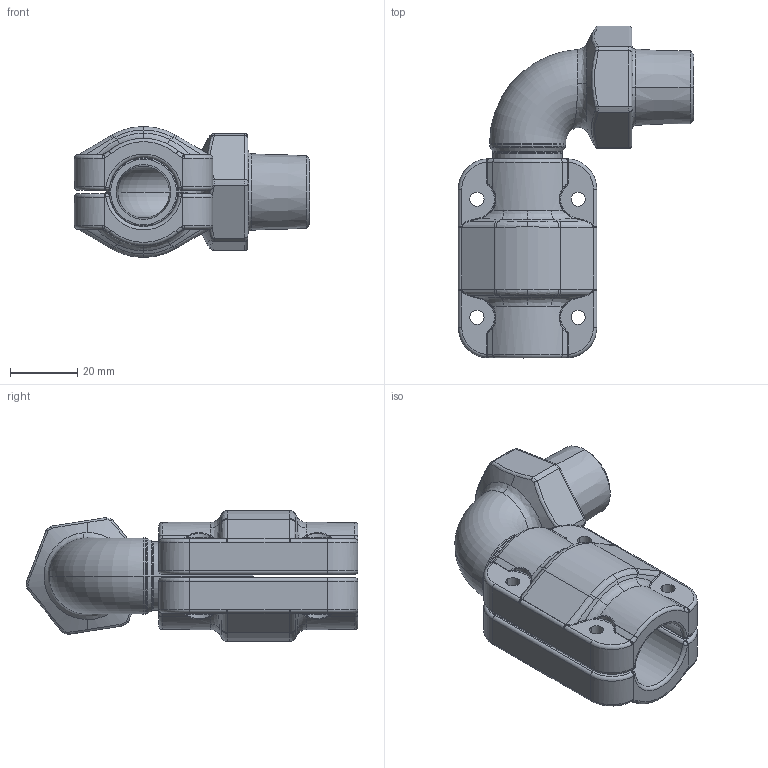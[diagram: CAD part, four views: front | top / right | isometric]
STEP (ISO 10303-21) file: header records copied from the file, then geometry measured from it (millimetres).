
FILE_DESCRIPTION((''),'2;1');
FILE_NAME('AU15101599_ASM','2017-05-12T',('Administrator'),(''),'PRO/ENGINEER BY PARAMETRIC TECHNOLOGY CORPORATION, 2009360','PRO/ENGINEER BY PARAMETRIC TECHNOLOGY CORPORATION, 2009360','');
FILE_SCHEMA(('AUTOMOTIVE_DESIGN_CC2 { 1 2 10303 214 -1 1 5 2 }'));
Length unit declared in the file: millimetre
Products named in the file (5): AU15101500; 201510020000_38; 201510020001_10; 2015100200_ASM; AU15101599_ASM
Assembly tree (4 placements, depth 3):
  AU15101599_ASM
    AU15101500
    2015100200_ASM
      201510020000_38
      201510020001_10
Bounding box: 69.72 x 98.38 x 38.8 mm (x, y, z)
Volume: 66418.2 mm3; surface area: 29933.7 mm2
Topology: 3 solids, 9 shells, 450 faces, 1062 edges, 632 vertices
Faces by surface type: bspline 146, cylinder 128, torus 96, plane 48, cone 24, sphere 8
Entity records: 22385 total; most frequent: CARTESIAN_POINT 9877, ORIENTED_EDGE 2124, DIRECTION 1656, PRESENTATION_STYLE_ASSIGNMENT 1065, STYLED_ITEM 1065, CURVE_STYLE 1062, EDGE_CURVE 1062, AXIS2_PLACEMENT_3D 717
